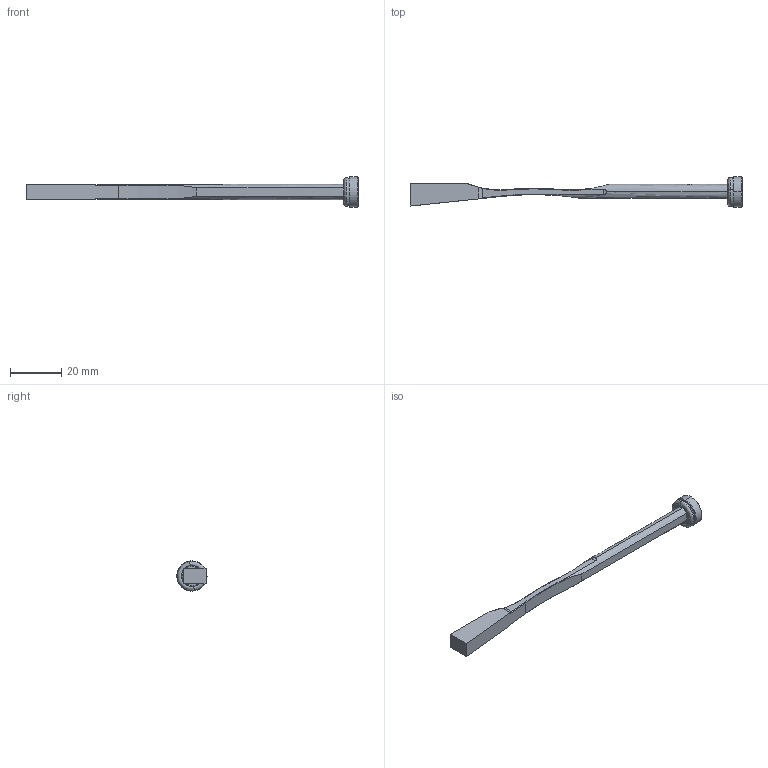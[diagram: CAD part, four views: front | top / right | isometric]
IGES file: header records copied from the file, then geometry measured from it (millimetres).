
Start section: START RECORD GO HERE.
Global section: file name: pw060622_injection.igs; native system: DASSAULT SYSTEMES CATIA V5 R20 - www.3ds.com; preprocessor: CATIA Version 5 Release 20 ; author: Utente; organization: NB04-ASUS; date: 20201108.134802; units: millimetre
Bounding box: 130 x 11.8 x 11.8 mm (x, y, z)
Surface area: 3851.2 mm2 (no closed solid volume)
Topology: 0 solids, 0 shells, 92 faces, 415 edges, 411 vertices
Faces by surface type: revolution 57, plane 28, bspline 7
